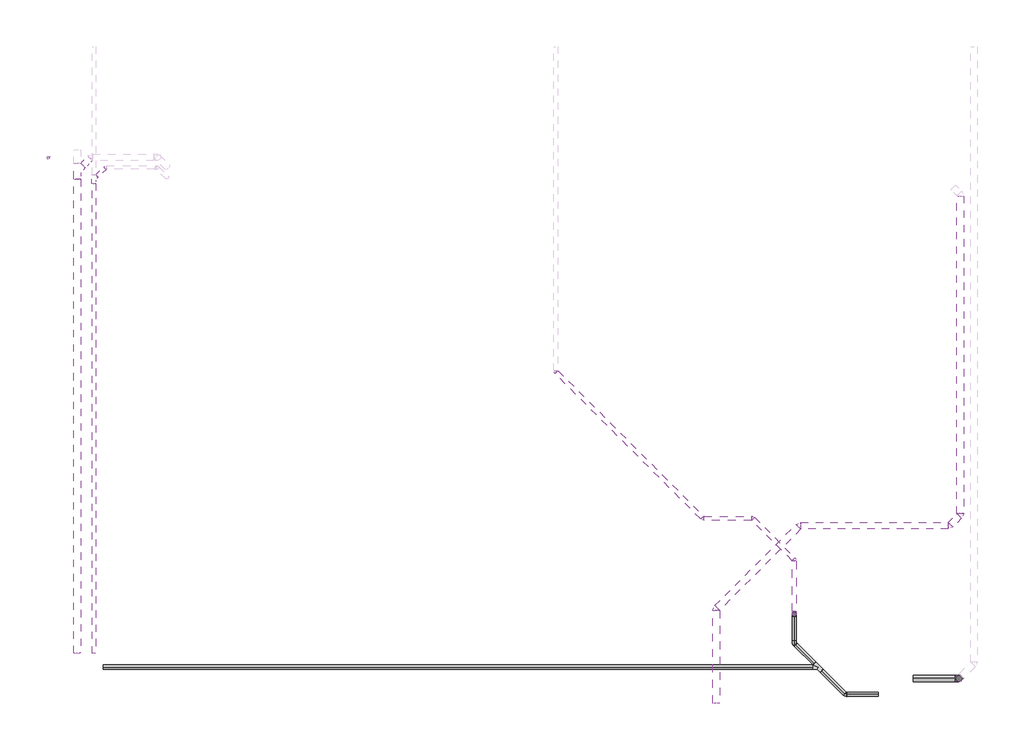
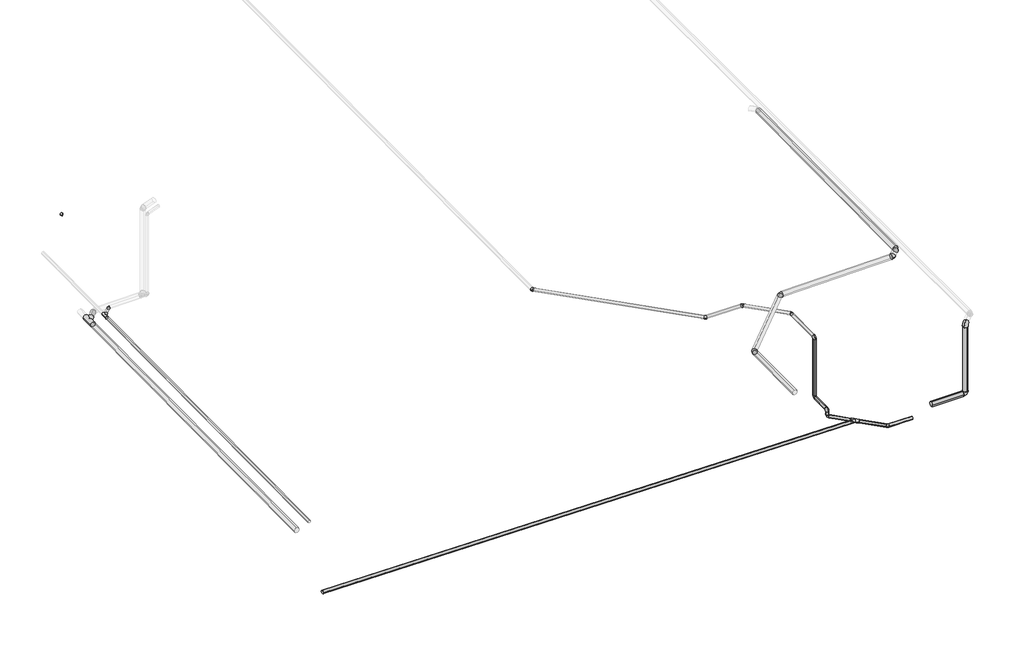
# One storey, part 1 of 2: 22 pipe segments, 20 pipe fittings.
"""IFC4 building model written with IfcOpenShell, lengths in millimetres."""

from ifc_helpers import new_model, si_unit, point, frame, frame_2d, origin, place, context, project, spatial, circle_curve, trimmed, segment, composite_curve, outline, extrude, transform, mapped, element, save
from components import pipe_fitting_8e92d537, pipe_fitting_b994c117, pipe_fitting_ae9a0cda, pipe_fitting_0b7fd5a4, pipe_fitting_b37f0415, pipe_fitting_556f92ad, pipe_fitting_19d05a80, pipe_fitting_ab36f62d, pipe_fitting_82aed225, pipe_fitting_02b8a132, pipe_fitting_ae0a18f3

model = new_model("IFC4")

# Units and contexts
model_context = context("Model", 3, world=origin())
ifc_project = project(units=[si_unit("LENGTHUNIT", "METRE", prefix="MILLI")], contexts=[model_context])

# Site, building, storey
site = spatial("IfcSite", under=ifc_project)
building = spatial("IfcBuilding", under=site)
storey = spatial("IfcBuildingStorey", under=building, Name="Nivell -03 PS2_PK", Elevation=-1600.0)

# Pipe fittings
placement = place(None, origin())
pipe_fitting_shape = pipe_fitting_8e92d537(model_context)
element("IfcPipeFitting", 1, ObjectType="M_Codo - Genérico : Estándar", at=placement, inside=storey, context=model_context, shape_type="MappedRepresentation", body=[
    mapped(pipe_fitting_shape, transform((26792.089401, -24927.3113201, 886.5006492), x_axis=(0.0, -0.9999500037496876, -0.009999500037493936), y_axis=(0.0, 0.009999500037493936, -0.9999500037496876), z_axis=(1.0, 0.0, 0.0))),
])
element("IfcPipeFitting", 2, ObjectType="M_Codo - Genérico : Estándar", at=placement, inside=storey, context=model_context, shape_type="MappedRepresentation", body=[
    mapped(pipe_fitting_shape, transform((26792.089401, -24927.3113201, -1699.500025), x_axis=(0.0, 0.0, -1.0), y_axis=(0.0, -1.0, 0.0), z_axis=(-1.0, 0.0, 0.0))),
])
element("IfcPipeFitting", 3, ObjectType="M_Codo - Genérico : Estándar", at=placement, inside=storey, context=model_context, shape_type="MappedRepresentation", body=[
    mapped(pipe_fitting_shape, transform((26792.089401, -25821.5720356, -1996.972254), x_axis=(0.0, 0.0, -1.0), y_axis=(0.707106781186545, -0.70710678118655, 0.0), z_axis=(-0.70710678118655, -0.707106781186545, 0.0))),
])
element("IfcPipeFitting", 4, ObjectType="M_Codo - Genérico : Estándar", at=placement, inside=storey, context=model_context, shape_type="MappedRepresentation", body=[
    mapped(pipe_fitting_shape, transform((26792.089401, -25821.5720356, -1708.4426322), x_axis=(0.0, -0.9999500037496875, -0.009999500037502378), y_axis=(0.0, 0.009999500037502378, -0.9999500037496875), z_axis=(1.0, 0.0, 0.0))),
])
pipe_fitting_2_shape = pipe_fitting_b994c117(model_context)
element("IfcPipeFitting", 5, ObjectType="M_Codo - Genérico : Estándar", at=placement, inside=storey, context=model_context, shape_type="MappedRepresentation", body=[
    mapped(pipe_fitting_2_shape, transform((28360.526171, -27390.0088055, -2019.1532995), x_axis=(0.707071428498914, -0.7070714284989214, -0.009999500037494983), y_axis=(0.707071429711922, 0.7071300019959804, -0.004141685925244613), z_axis=(0.009999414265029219, -0.0041418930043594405, 0.9999414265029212))),
])
element("IfcPipeFitting", 6, ObjectType="M_Codo - Genérico : Estándar", at=placement, inside=storey, context=model_context, shape_type="MappedRepresentation", body=[
    mapped(pipe_fitting_2_shape, transform((25519.3397767, -22004.6441895, 920.9992221), x_axis=(-0.7070714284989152, 0.7070714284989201, 0.00999950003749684), y_axis=(-0.7070714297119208, -0.7071300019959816, 0.004141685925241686), z_axis=(0.00999941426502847, -0.004141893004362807, 0.9999414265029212))),
])
element("IfcPipeFitting", 7, ObjectType="M_Codo - Genérico : Estándar", at=placement, inside=storey, context=model_context, shape_type="MappedRepresentation", body=[
    mapped(pipe_fitting_2_shape, transform((26792.089401, -23277.3938139, 902.9998243), x_axis=(0.0, 0.9999500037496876, 0.00999950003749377), y_axis=(-0.999991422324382, -4.141685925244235e-05, 0.004141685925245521), z_axis=(0.004141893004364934, -0.009999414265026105, 0.9999414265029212))),
])
pipe_fitting_3_shape = pipe_fitting_ae9a0cda(model_context)
element("IfcPipeFitting", 8, ObjectType="M_Codo - Genérico : Estándar", at=placement, inside=storey, context=model_context, shape_type="MappedRepresentation", body=[
    mapped(pipe_fitting_3_shape, transform((31864.1905227, -21906.7775347, 1083.9654243), x_axis=(0.7070714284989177, 0.7070714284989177, 0.00999950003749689), y_axis=(-0.7071300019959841, 0.7070714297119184, 0.004141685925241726), z_axis=(-0.004141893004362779, -0.009999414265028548, 0.9999414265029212))),
])
element("IfcPipeFitting", 9, ObjectType="M_Codo - Genérico : Estándar", at=placement, inside=storey, context=model_context, shape_type="MappedRepresentation", body=[
    mapped(pipe_fitting_3_shape, transform((31538.4322829, -22232.5357745, 1079.3585071), x_axis=(0.9999500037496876, 0.0, 0.009999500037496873), y_axis=(-4.141685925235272e-05, 0.9999914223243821, 0.004141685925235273), z_axis=(-0.009999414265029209, -0.004141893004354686, 0.9999414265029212))),
])
element("IfcPipeFitting", 10, ObjectType="M_Codo - Genérico : Estándar", at=placement, inside=storey, context=model_context, shape_type="MappedRepresentation", body=[
    mapped(pipe_fitting_3_shape, transform((26953.6086018, -22232.5357745, 1033.5102703), x_axis=(-0.9999500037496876, 0.0, -0.009999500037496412), y_axis=(4.141685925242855e-05, -0.999991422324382, -0.004141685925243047), z_axis=(-0.009999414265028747, -0.004141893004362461, 0.9999414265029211))),
])
element("IfcPipeFitting", 11, ObjectType="M_Codo - Genérico : Estándar", at=placement, inside=storey, context=model_context, shape_type="MappedRepresentation", body=[
    mapped(pipe_fitting_3_shape, transform((24410.7856862, -24775.3586901, 997.5493237), x_axis=(-0.7070714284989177, -0.7070714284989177, -0.009999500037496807), y_axis=(0.7071300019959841, -0.7070714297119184, -0.00414168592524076), z_axis=(-0.0041418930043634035, -0.009999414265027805, 0.9999414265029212))),
])
pipe_fitting_4_shape = pipe_fitting_0b7fd5a4(model_context)
element("IfcPipeFitting", 12, ObjectType="M_Codo - Genérico : Estándar", at=placement, inside=storey, context=model_context, shape_type="MappedRepresentation", body=[
    mapped(pipe_fitting_4_shape, transform((5753.7244008, -11284.1025763, 1251.71283), x_axis=(-0.9999500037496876, 0.0, -0.009999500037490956), y_axis=(4.141685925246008e-05, -0.999991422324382, -0.00414168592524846), z_axis=(-0.009999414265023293, -0.004141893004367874, 0.9999414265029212))),
])
pipe_fitting_5_shape = pipe_fitting_b37f0415(model_context)
element("IfcPipeFitting", 13, ObjectType="M_Codo - Genérico : Estándar", at=placement, inside=storey, context=model_context, shape_type="MappedRepresentation", body=[
    mapped(pipe_fitting_5_shape, transform((31821.5211576, -26902.421925, -2100.0), x_axis=(1.0, 0.0, 0.0), y_axis=(0.0, 0.0, 1.0), z_axis=(0.0, -1.0, 0.0))),
])
element("IfcPipeFitting", 14, ObjectType="M_Codo - Genérico : Estándar", at=placement, inside=storey, context=model_context, shape_type="MappedRepresentation", body=[
    mapped(pipe_fitting_5_shape, transform((31821.5211576, -26902.421925, 900.0), x_axis=(0.0, 0.0, 1.0), y_axis=(0.7071067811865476, 0.7071067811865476, 0.0), z_axis=(-0.7071067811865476, 0.7071067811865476, 0.0))),
])
pipe_fitting_6_shape = pipe_fitting_556f92ad(model_context)
element("IfcPipeFitting", 15, ObjectType="M_Codo - Genérico : Estándar", at=placement, inside=storey, context=model_context, shape_type="MappedRepresentation", body=[
    mapped(pipe_fitting_6_shape, transform((19509.4431427, -17513.7662193, 999.6992168), x_axis=(0.0, -0.9999500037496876, -0.009999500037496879), y_axis=(0.999991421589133, 4.141863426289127e-05, -0.0041418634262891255), z_axis=(0.00414207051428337, -0.009999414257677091, 0.9999414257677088))),
])
pipe_fitting_7_shape = pipe_fitting_19d05a80(model_context)
element("IfcPipeFitting", 16, ObjectType="M_Codo - Genérico : Estándar", at=placement, inside=storey, context=model_context, shape_type="MappedRepresentation", body=[
    mapped(pipe_fitting_7_shape, transform((24000.5933142, -22004.6441895, 936.1866867), x_axis=(0.707092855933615, -0.7070500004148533, -0.00999950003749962), y_axis=(0.7070500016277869, 0.7071514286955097, -0.004141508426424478), z_axis=(0.009999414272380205, -0.004141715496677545, 0.9999414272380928))),
])
pipe_fitting_8_shape = pipe_fitting_ab36f62d(model_context)
element("IfcPipeFitting", 17, ObjectType="M_Te - Genérica : Estándar", at=placement, inside=storey, context=model_context, shape_type="MappedRepresentation", body=[
    mapped(pipe_fitting_8_shape, transform((27523.0519448, -26552.5345793, -2007.3096254), x_axis=(-0.7070714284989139, 0.7070714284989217, 0.009999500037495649), y_axis=(0.7070714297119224, 0.7071300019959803, -0.004141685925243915), z_axis=(-0.009999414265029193, 0.004141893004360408, -0.9999414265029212))),
])
pipe_fitting_9_shape = pipe_fitting_82aed225(model_context)
element("IfcPipeFitting", 18, ObjectType="M_Codo - Genérico : Estándar", at=placement, inside=storey, context=model_context, shape_type="MappedRepresentation", body=[
    mapped(pipe_fitting_9_shape, transform((4010.393115, -10973.4626417, 5711.2872501), x_axis=(0.0, -0.9999515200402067, -0.009846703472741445), y_axis=(0.999990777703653, 4.228870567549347e-05, -0.004294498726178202), z_axis=(0.004294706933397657, -0.009846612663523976, 0.9999422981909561))),
])
pipe_fitting_10_shape = pipe_fitting_02b8a132(model_context)
element("IfcPipeFitting", 19, ObjectType="M_Te - Genérica : Estándar", at=placement, inside=storey, context=model_context, shape_type="MappedRepresentation", body=[
    mapped(pipe_fitting_10_shape, transform((5397.7408128, -11640.0861643, 1246.6784618), x_axis=(0.0, 0.9999500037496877, 0.009999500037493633), y_axis=(-0.9999914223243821, 4.14168592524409e-05, -0.004141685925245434), z_axis=(-0.004141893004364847, -0.009999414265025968, 0.9999414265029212))),
])
pipe_fitting_11_shape = pipe_fitting_ae0a18f3(model_context)
element("IfcPipeFitting", 20, ObjectType="M_Te - Genérica : Estándar", at=placement, inside=storey, context=model_context, shape_type="MappedRepresentation", body=[
    mapped(pipe_fitting_11_shape, transform((4891.2404963, -11395.0341995, 1050.0), x_axis=(0.0, 0.9999500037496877, 0.00999950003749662), y_axis=(-0.9999914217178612, 4.141832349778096e-05, -0.004141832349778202), z_axis=(-0.0041420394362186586, -0.009999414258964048, 0.9999414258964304))),
])

# Pipe segments
element("IfcPipeSegment", 21, ObjectType="PVC_Baixant", at=placement, inside=storey, context=model_context, shape_type="SweptSolid", body=[
    extrude(outline(composite_curve([segment(trimmed(circle_curve(frame_2d((0.0, -100.0)), 100.0), [point((-100.0, -100.0))], [point((0.0, 0.0))], False, "CARTESIAN"), True, "CONTINUOUS"), segment(trimmed(circle_curve(frame_2d((0.0, -100.0)), 100.0), [point((0.0, 0.0))], [point((100.0, -100.0))], False, "CARTESIAN"), True, "CONTINUOUS"), segment(trimmed(circle_curve(frame_2d((0.0, -100.0)), 100.0), [point((100.0, -100.0))], [point((0.0, -200.0))], False, "CARTESIAN"), True, "CONTINUOUS"), segment(trimmed(circle_curve(frame_2d((0.0, -100.0)), 100.0), [point((0.0, -200.0))], [point((-100.0, -100.0))], False, "CARTESIAN"), True, "CONTINUOUS")], self_intersect=False)), frame((31864.1905227, -21860.4105925, 984.4240938), z_axis=(0.0, 0.9999500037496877, 0.00999950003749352), x_axis=(1.0, 0.0, 0.0)), (0.0, 0.0, 1.0), 9708.5243128),
])
element("IfcPipeSegment", 22, ObjectType="PVC_Baixant", at=placement, inside=storey, context=model_context, shape_type="SweptSolid", body=[
    extrude(outline(composite_curve([segment(trimmed(circle_curve(frame_2d((0.0, -100.0)), 100.0), [point((-99.9950009, -99.0001))], [point((0.9999, -0.0049991))], False, "CARTESIAN"), True, "CONTINUOUS"), segment(trimmed(circle_curve(frame_2d((0.0, -100.0)), 100.0), [point((0.9999, -0.0049991))], [point((99.9950009, -100.9999))], False, "CARTESIAN"), True, "CONTINUOUS"), segment(trimmed(circle_curve(frame_2d((0.0, -100.0)), 100.0), [point((99.9950009, -100.9999))], [point((-0.9999, -199.9950009))], False, "CARTESIAN"), True, "CONTINUOUS"), segment(trimmed(circle_curve(frame_2d((0.0, -100.0)), 100.0), [point((-0.9999, -199.9950009))], [point((-99.9950009, -99.0001))], False, "CARTESIAN"), True, "CONTINUOUS")], self_intersect=False)), frame((31570.5115907, -22199.0423945, 979.8221755), z_axis=(0.7070714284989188, 0.7070714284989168, 0.009999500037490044), x_axis=(0.7071421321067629, -0.7070007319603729, -0.009998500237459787)), (0.0, 0.0, 1.0), 369.9762338),
])
element("IfcPipeSegment", 23, ObjectType="PVC_Baixant", at=placement, inside=storey, context=model_context, shape_type="SweptSolid", body=[
    extrude(outline(composite_curve([segment(trimmed(circle_curve(frame_2d((0.0, -100.0)), 100.0), [point((0.0, 0.0))], [point((100.0, -100.0))], False, "CARTESIAN"), True, "CONTINUOUS"), segment(trimmed(circle_curve(frame_2d((0.0, -100.0)), 100.0), [point((100.0, -100.0))], [point((0.0, -200.0))], False, "CARTESIAN"), True, "CONTINUOUS"), segment(trimmed(circle_curve(frame_2d((0.0, -100.0)), 100.0), [point((0.0, -200.0))], [point((-100.0, -100.0))], False, "CARTESIAN"), True, "CONTINUOUS"), segment(trimmed(circle_curve(frame_2d((0.0, -100.0)), 100.0), [point((-100.0, -100.0))], [point((0.0, 0.0))], False, "CARTESIAN"), True, "CONTINUOUS")], self_intersect=False)), frame((26998.975594, -22132.5357745, 1033.9639402), z_axis=(0.9999500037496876, 0.0, 0.009999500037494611), x_axis=(0.009999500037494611, 0.0, -0.9999500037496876)), (0.0, 0.0, 1.0), 4494.3143955),
])
element("IfcPipeSegment", 24, ObjectType="PVC_Baixant", at=placement, inside=storey, context=model_context, shape_type="SweptSolid", body=[
    extrude(outline(composite_curve([segment(trimmed(circle_curve(frame_2d((0.0, -100.0)), 100.0), [point((-99.9950008, -99.0001))], [point((0.9999, -0.0049991))], False, "CARTESIAN"), True, "CONTINUOUS"), segment(trimmed(circle_curve(frame_2d((0.0, -100.0)), 100.0), [point((0.9999, -0.0049991))], [point((99.9950009, -100.9999))], False, "CARTESIAN"), True, "CONTINUOUS"), segment(trimmed(circle_curve(frame_2d((0.0, -100.0)), 100.0), [point((99.9950009, -100.9999))], [point((-0.9999, -199.9950008))], False, "CARTESIAN"), True, "CONTINUOUS"), segment(trimmed(circle_curve(frame_2d((0.0, -100.0)), 100.0), [point((-0.9999, -199.9950008))], [point((-99.9950008, -99.0001))], False, "CARTESIAN"), True, "CONTINUOUS")], self_intersect=False)), frame((24442.864994, -24741.8653101, 898.0129922), z_axis=(0.7070714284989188, 0.7070714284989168, 0.009999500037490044), x_axis=(0.7071421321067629, -0.7070007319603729, -0.009998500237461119)), (0.0, 0.0, 1.0), 3505.5359332),
])
element("IfcPipeSegment", 25, ObjectType="PVC_Baixant", at=placement, inside=storey, context=model_context, shape_type="SweptSolid", body=[
    extrude(outline(composite_curve([segment(trimmed(circle_curve(frame_2d((0.0, -100.0)), 100.0), [point((-100.0, -100.0))], [point((0.0, 0.0))], False, "CARTESIAN"), True, "CONTINUOUS"), segment(trimmed(circle_curve(frame_2d((0.0, -100.0)), 100.0), [point((0.0, 0.0))], [point((100.0, -100.0))], False, "CARTESIAN"), True, "CONTINUOUS"), segment(trimmed(circle_curve(frame_2d((0.0, -100.0)), 100.0), [point((100.0, -100.0))], [point((0.0, -200.0))], False, "CARTESIAN"), True, "CONTINUOUS"), segment(trimmed(circle_curve(frame_2d((0.0, -100.0)), 100.0), [point((0.0, -200.0))], [point((-100.0, -100.0))], False, "CARTESIAN"), True, "CONTINUOUS")], self_intersect=False)), frame((24410.7856862, -27657.501052, 868.7229002), z_axis=(0.0, 0.9999500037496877, 0.009999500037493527), x_axis=(1.0, 0.0, 0.0)), (0.0, 0.0, 1.0), 2837.9172049),
])
element("IfcPipeSegment", 26, ObjectType="PVC_Baixant", at=placement, inside=storey, context=model_context, shape_type="SweptSolid", body=[
    extrude(outline(composite_curve([segment(trimmed(circle_curve(frame_2d((0.0, -62.5)), 62.5), [point((0.0, -125.0))], [point((-62.5, -62.5))], False, "CARTESIAN"), True, "CONTINUOUS"), segment(trimmed(circle_curve(frame_2d((0.0, -62.5)), 62.5), [point((-62.5, -62.5))], [point((0.0, 0.0))], False, "CARTESIAN"), True, "CONTINUOUS"), segment(trimmed(circle_curve(frame_2d((0.0, -62.5)), 62.5), [point((0.0, 0.0))], [point((62.5, -62.5))], False, "CARTESIAN"), True, "CONTINUOUS"), segment(trimmed(circle_curve(frame_2d((0.0, -62.5)), 62.5), [point((62.5, -62.5))], [point((0.0, -125.0))], False, "CARTESIAN"), True, "CONTINUOUS")], self_intersect=False)), frame((27365.9154716, -26490.0345793, -2005.7382607), z_axis=(-0.9999500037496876, 0.0, 0.009999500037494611), x_axis=(0.009999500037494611, 0.0, 0.9999500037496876)), (0.0, 0.0, 1.0), 21680.2763571),
])
element("IfcPipeSegment", 27, ObjectType="PVC_Baixant", at=placement, inside=storey, context=model_context, shape_type="SweptSolid", body=[
    extrude(outline(composite_curve([segment(trimmed(circle_curve(frame_2d((0.0, -62.5000001)), 62.5), [point((-62.4968755, -63.1249376))], [point((-0.6249374, -0.0031244))], False, "CARTESIAN"), True, "CONTINUOUS"), segment(trimmed(circle_curve(frame_2d((0.0, -62.5000001)), 62.5), [point((-0.6249374, -0.0031244))], [point((62.4968756, -61.8750626))], False, "CARTESIAN"), True, "CONTINUOUS"), segment(trimmed(circle_curve(frame_2d((0.0, -62.5000001)), 62.5), [point((62.4968756, -61.8750626))], [point((0.6249376, -124.9968756))], False, "CARTESIAN"), True, "CONTINUOUS"), segment(trimmed(circle_curve(frame_2d((0.0, -62.5000001)), 62.5), [point((0.6249376, -124.9968756))], [point((-62.4968755, -63.1249376))], False, "CARTESIAN"), True, "CONTINUOUS")], self_intersect=False)), frame((28339.6048832, -27368.2037227, -2081.3511788), z_axis=(-0.7070714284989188, 0.7070714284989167, 0.009999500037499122), x_axis=(0.7071421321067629, 0.7070007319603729, 0.009998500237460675)), (0.0, 0.0, 1.0), 997.6936478),
])
element("IfcPipeSegment", 28, ObjectType="PVC_Baixant", at=placement, inside=storey, context=model_context, shape_type="SweptSolid", body=[
    extrude(outline(composite_curve([segment(trimmed(circle_curve(frame_2d((0.0, -62.5)), 62.5), [point((0.0, -125.0))], [point((-62.5000001, -62.5))], False, "CARTESIAN"), True, "CONTINUOUS"), segment(trimmed(circle_curve(frame_2d((0.0, -62.5)), 62.5), [point((-62.5000001, -62.5))], [point((0.0, 0.0))], False, "CARTESIAN"), True, "CONTINUOUS"), segment(trimmed(circle_curve(frame_2d((0.0, -62.5)), 62.5), [point((0.0, 0.0))], [point((62.5, -62.5))], False, "CARTESIAN"), True, "CONTINUOUS"), segment(trimmed(circle_curve(frame_2d((0.0, -62.5)), 62.5), [point((62.5, -62.5))], [point((0.0, -125.0))], False, "CARTESIAN"), True, "CONTINUOUS")], self_intersect=False)), frame((29360.5358433, -27327.5088055, -2029.1533962), z_axis=(-0.9999500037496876, 0.0, 0.009999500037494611), x_axis=(0.009999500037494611, 0.0, 0.9999500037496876)), (0.0, 0.0, 1.0), 970.4710235),
])
element("IfcPipeSegment", 29, ObjectType="PVC_Baixant", at=placement, inside=storey, context=model_context, shape_type="SweptSolid", body=[
    extrude(outline(composite_curve([segment(trimmed(circle_curve(frame_2d((-26902.421925, -2100.0)), 100.0), [point((-27002.421925, -2100.0))], [point((-26902.421925, -2000.0))], False, "CARTESIAN"), True, "CONTINUOUS"), segment(trimmed(circle_curve(frame_2d((-26902.421925, -2100.0)), 100.0), [point((-26902.421925, -2000.0))], [point((-26802.421925, -2100.0))], False, "CARTESIAN"), True, "CONTINUOUS"), segment(trimmed(circle_curve(frame_2d((-26902.421925, -2100.0)), 100.0), [point((-26802.421925, -2100.0))], [point((-26902.421925, -2200.0))], False, "CARTESIAN"), True, "CONTINUOUS"), segment(trimmed(circle_curve(frame_2d((-26902.421925, -2100.0)), 100.0), [point((-26902.421925, -2200.0))], [point((-27002.421925, -2100.0))], False, "CARTESIAN"), True, "CONTINUOUS")], self_intersect=False)), frame((30421.5211576, 0.0, 0.0), z_axis=(1.0, 0.0, 0.0), x_axis=(0.0, 1.0, 0.0)), (0.0, 0.0, 1.0), 1290.4625),
])
element("IfcPipeSegment", 30, ObjectType="PVC_Baixant", at=placement, inside=storey, context=model_context, shape_type="SweptSolid", body=[
    extrude(outline(composite_curve([segment(trimmed(circle_curve(frame_2d((31821.5211576, -26902.421925)), 100.0), [point((31721.5211576, -26902.421925))], [point((31821.5211576, -26802.421925))], False, "CARTESIAN"), True, "CONTINUOUS"), segment(trimmed(circle_curve(frame_2d((31821.5211576, -26902.421925)), 100.0), [point((31821.5211576, -26802.421925))], [point((31921.5211576, -26902.421925))], False, "CARTESIAN"), True, "CONTINUOUS"), segment(trimmed(circle_curve(frame_2d((31821.5211576, -26902.421925)), 100.0), [point((31921.5211576, -26902.421925))], [point((31821.5211576, -27002.421925))], False, "CARTESIAN"), True, "CONTINUOUS"), segment(trimmed(circle_curve(frame_2d((31821.5211576, -26902.421925)), 100.0), [point((31821.5211576, -27002.421925))], [point((31721.5211576, -26902.421925))], False, "CARTESIAN"), True, "CONTINUOUS")], self_intersect=False)), frame((0.0, 0.0, -1990.4625), z_axis=(0.0, 0.0, 1.0), x_axis=(1.0, 0.0, 0.0)), (0.0, 0.0, 1.0), 2780.925),
])
element("IfcPipeSegment", 31, ObjectType="PVC_Baixant", at=placement, inside=storey, context=model_context, shape_type="SweptSolid", body=[
    extrude(outline(composite_curve([segment(trimmed(circle_curve(frame_2d((1e-07, -62.4999999)), 62.5), [point((-62.4968752, -63.1249753))], [point((-0.6249753, -0.0031248))], False, "CARTESIAN"), True, "CONTINUOUS"), segment(trimmed(circle_curve(frame_2d((1e-07, -62.4999999)), 62.5), [point((-0.6249753, -0.0031248))], [point((62.4968752, -61.8750246))], False, "CARTESIAN"), True, "CONTINUOUS"), segment(trimmed(circle_curve(frame_2d((1e-07, -62.4999999)), 62.5), [point((62.4968752, -61.8750246))], [point((0.6249755, -124.9968752))], False, "CARTESIAN"), True, "CONTINUOUS"), segment(trimmed(circle_curve(frame_2d((1e-07, -62.4999999)), 62.5), [point((0.6249755, -124.9968752))], [point((-62.4968752, -63.1249753))], False, "CARTESIAN"), True, "CONTINUOUS")], self_intersect=False)), frame((23979.6722891, -21982.8406106, 873.9887952), z_axis=(-0.7070928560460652, 0.7070500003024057, 0.0099995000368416), x_axis=(0.7071207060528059, 0.7070221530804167, 0.009999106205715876)), (0.0, 0.0, 1.0), 6292.3932691),
])
element("IfcPipeSegment", 32, ObjectType="PVC_Baixant", at=placement, inside=storey, context=model_context, shape_type="SweptSolid", body=[
    extrude(outline(composite_curve([segment(trimmed(circle_curve(frame_2d((0.0, -62.5)), 62.5), [point((0.0, -125.0))], [point((-62.5000001, -62.5))], False, "CARTESIAN"), True, "CONTINUOUS"), segment(trimmed(circle_curve(frame_2d((0.0, -62.5)), 62.5), [point((-62.5000001, -62.5))], [point((0.0, 0.0))], False, "CARTESIAN"), True, "CONTINUOUS"), segment(trimmed(circle_curve(frame_2d((0.0, -62.5)), 62.5), [point((0.0, 0.0))], [point((62.5, -62.5))], False, "CARTESIAN"), True, "CONTINUOUS"), segment(trimmed(circle_curve(frame_2d((0.0, -62.5)), 62.5), [point((62.5, -62.5))], [point((0.0, -125.0))], False, "CARTESIAN"), True, "CONTINUOUS")], self_intersect=False)), frame((25489.7526079, -21942.1441895, 921.2950938), z_axis=(-0.999950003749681, 0.0, 0.009999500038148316), x_axis=(0.009999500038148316, 0.0, 0.999950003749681)), (0.0, 0.0, 1.0), 1459.6463697),
])
element("IfcPipeSegment", 33, ObjectType="PVC_Baixant", at=placement, inside=storey, context=model_context, shape_type="SweptSolid", body=[
    extrude(outline(composite_curve([segment(trimmed(circle_curve(frame_2d((0.0, -62.5000001)), 62.5), [point((-62.4968755, -63.1249376))], [point((-0.6249374, -0.0031244))], False, "CARTESIAN"), True, "CONTINUOUS"), segment(trimmed(circle_curve(frame_2d((0.0, -62.5000001)), 62.5), [point((-0.6249374, -0.0031244))], [point((62.4968756, -61.8750626))], False, "CARTESIAN"), True, "CONTINUOUS"), segment(trimmed(circle_curve(frame_2d((0.0, -62.5000001)), 62.5), [point((62.4968756, -61.8750626))], [point((0.6249375, -124.9968756))], False, "CARTESIAN"), True, "CONTINUOUS"), segment(trimmed(circle_curve(frame_2d((0.0, -62.5000001)), 62.5), [point((0.6249375, -124.9968756))], [point((-62.4968755, -63.1249376))], False, "CARTESIAN"), True, "CONTINUOUS")], self_intersect=False)), frame((26771.1681133, -23255.5887311, 840.801945), z_axis=(-0.7070714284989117, 0.7070714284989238, 0.009999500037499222), x_axis=(0.70714213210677, 0.7070007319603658, 0.009998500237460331)), (0.0, 0.0, 1.0), 1740.8524787),
])
element("IfcPipeSegment", 34, ObjectType="PVC_Baixant", at=placement, inside=storey, context=model_context, shape_type="SweptSolid", body=[
    extrude(outline(composite_curve([segment(trimmed(circle_curve(frame_2d((0.0, -62.5)), 62.5), [point((-62.5, -62.5))], [point((0.0, 0.0))], False, "CARTESIAN"), True, "CONTINUOUS"), segment(trimmed(circle_curve(frame_2d((0.0, -62.5)), 62.5), [point((0.0, 0.0))], [point((62.5, -62.5))], False, "CARTESIAN"), True, "CONTINUOUS"), segment(trimmed(circle_curve(frame_2d((0.0, -62.5)), 62.5), [point((62.5, -62.5))], [point((0.0, -125.0))], False, "CARTESIAN"), True, "CONTINUOUS"), segment(trimmed(circle_curve(frame_2d((0.0, -62.5)), 62.5), [point((0.0, -125.0))], [point((-62.5, -62.5))], False, "CARTESIAN"), True, "CONTINUOUS")], self_intersect=False)), frame((26792.089401, -24855.9631906, 824.7110056), z_axis=(0.0, 0.9999500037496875, 0.009999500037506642), x_axis=(1.0, 0.0, 0.0)), (0.0, 0.0, 1.0), 1549.6846551),
])
element("IfcPipeSegment", 35, ObjectType="PVC_Baixant", at=placement, inside=storey, context=model_context, shape_type="SweptSolid", body=[
    extrude(outline(composite_curve([segment(trimmed(circle_curve(frame_2d((26792.089401, -24927.3113201)), 62.5), [point((26854.589401, -24927.3113201))], [point((26792.089401, -24989.8113201))], False, "CARTESIAN"), True, "CONTINUOUS"), segment(trimmed(circle_curve(frame_2d((26792.089401, -24927.3113201)), 62.5), [point((26792.089401, -24989.8113201))], [point((26729.589401, -24927.3113201))], False, "CARTESIAN"), True, "CONTINUOUS"), segment(trimmed(circle_curve(frame_2d((26792.089401, -24927.3113201)), 62.5), [point((26729.589401, -24927.3113201))], [point((26792.089401, -24864.8113201))], False, "CARTESIAN"), True, "CONTINUOUS"), segment(trimmed(circle_curve(frame_2d((26792.089401, -24927.3113201)), 62.5), [point((26792.089401, -24864.8113201))], [point((26854.589401, -24927.3113201))], False, "CARTESIAN"), True, "CONTINUOUS")], self_intersect=False)), frame((0.0, 0.0, -1628.7733282), z_axis=(0.0, 0.0, 1.0), x_axis=(1.0, 0.0, 0.0)), (0.0, 0.0, 1.0), 2444.5472806),
])
element("IfcPipeSegment", 36, ObjectType="PVC_Baixant", at=placement, inside=storey, context=model_context, shape_type="SweptSolid", body=[
    extrude(outline(composite_curve([segment(trimmed(circle_curve(frame_2d((0.0, -62.5)), 62.5), [point((-62.4968755, -63.1249375))], [point((-0.6249374, -0.0031244))], False, "CARTESIAN"), True, "CONTINUOUS"), segment(trimmed(circle_curve(frame_2d((0.0, -62.5)), 62.5), [point((-0.6249374, -0.0031244))], [point((62.4968756, -61.8750625))], False, "CARTESIAN"), True, "CONTINUOUS"), segment(trimmed(circle_curve(frame_2d((0.0, -62.5)), 62.5), [point((62.4968756, -61.8750625))], [point((0.6249376, -124.9968755))], False, "CARTESIAN"), True, "CONTINUOUS"), segment(trimmed(circle_curve(frame_2d((0.0, -62.5)), 62.5), [point((0.6249376, -124.9968755))], [point((-62.4968755, -63.1249375))], False, "CARTESIAN"), True, "CONTINUOUS")], self_intersect=False)), frame((27411.939679, -26440.5385185, -2068.2320116), z_axis=(-0.7070714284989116, 0.7070714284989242, 0.009999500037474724), x_axis=(0.7071421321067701, 0.707000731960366, 0.009998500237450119)), (0.0, 0.0, 1.0), 805.917802),
])
element("IfcPipeSegment", 37, ObjectType="PVC_Baixant", at=placement, inside=storey, context=model_context, shape_type="SweptSolid", body=[
    extrude(outline(composite_curve([segment(trimmed(circle_curve(frame_2d((26792.089401, -25821.5720356)), 62.5), [point((26854.589401, -25821.5720356))], [point((26792.089401, -25884.0720356))], False, "CARTESIAN"), True, "CONTINUOUS"), segment(trimmed(circle_curve(frame_2d((26792.089401, -25821.5720356)), 62.5), [point((26792.089401, -25884.0720356))], [point((26729.589401, -25821.5720356))], False, "CARTESIAN"), True, "CONTINUOUS"), segment(trimmed(circle_curve(frame_2d((26792.089401, -25821.5720356)), 62.5), [point((26729.589401, -25821.5720356))], [point((26792.089401, -25759.0720356))], False, "CARTESIAN"), True, "CONTINUOUS"), segment(trimmed(circle_curve(frame_2d((26792.089401, -25821.5720356)), 62.5), [point((26792.089401, -25759.0720356))], [point((26854.589401, -25821.5720356))], False, "CARTESIAN"), True, "CONTINUOUS")], self_intersect=False)), frame((0.0, 0.0, -1926.2455572), z_axis=(0.0, 0.0, 1.0), x_axis=(1.0, 0.0, 0.0)), (0.0, 0.0, 1.0), 147.0762283),
])
element("IfcPipeSegment", 38, ObjectType="PVC_Baixant", at=placement, inside=storey, context=model_context, shape_type="SweptSolid", body=[
    extrude(outline(composite_curve([segment(trimmed(circle_curve(frame_2d((0.0, -62.5000001)), 62.5), [point((-62.5, -62.5000001))], [point((0.0, 0.0))], False, "CARTESIAN"), True, "CONTINUOUS"), segment(trimmed(circle_curve(frame_2d((0.0, -62.5000001)), 62.5), [point((0.0, 0.0))], [point((62.5, -62.5000001))], False, "CARTESIAN"), True, "CONTINUOUS"), segment(trimmed(circle_curve(frame_2d((0.0, -62.5000001)), 62.5), [point((62.5, -62.5000001))], [point((0.0, -125.0))], False, "CARTESIAN"), True, "CONTINUOUS"), segment(trimmed(circle_curve(frame_2d((0.0, -62.5000001)), 62.5), [point((0.0, -125.0))], [point((-62.5, -62.5000001))], False, "CARTESIAN"), True, "CONTINUOUS")], self_intersect=False)), frame((26792.089401, -25750.2239061, -1770.2322758), z_axis=(0.0, 0.9999500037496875, 0.00999950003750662), x_axis=(1.0, 0.0, 0.0)), (0.0, 0.0, 1.0), 752.8520338),
])
element("IfcPipeSegment", 39, ObjectType="PVC_Baixant", at=placement, inside=storey, context=model_context, shape_type="SweptSolid", body=[
    extrude(outline(composite_curve([segment(trimmed(circle_curve(frame_2d((0.0, -55.0)), 55.0), [point((-55.0, -55.0))], [point((0.0, 0.0))], False, "CARTESIAN"), True, "CONTINUOUS"), segment(trimmed(circle_curve(frame_2d((0.0, -55.0)), 55.0), [point((0.0, 0.0))], [point((55.0, -55.0))], False, "CARTESIAN"), True, "CONTINUOUS"), segment(trimmed(circle_curve(frame_2d((0.0, -55.0)), 55.0), [point((55.0, -55.0))], [point((0.0, -110.0))], False, "CARTESIAN"), True, "CONTINUOUS"), segment(trimmed(circle_curve(frame_2d((0.0, -55.0)), 55.0), [point((0.0, -110.0))], [point((-55.0, -55.0))], False, "CARTESIAN"), True, "CONTINUOUS")], self_intersect=False)), frame((5397.7408128, -26130.794951, 1046.768624), z_axis=(0.0, 0.9999500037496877, 0.009999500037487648), x_axis=(1.0, 0.0, 0.0)), (0.0, 0.0, 1.0), 14355.3609916),
])
element("IfcPipeSegment", 40, ObjectType="PVC_Baixant", at=placement, inside=storey, context=model_context, shape_type="SweptSolid", body=[
    extrude(outline(composite_curve([segment(trimmed(circle_curve(frame_2d((0.0, -55.0)), 55.0), [point((-54.9972505, -54.450055))], [point((0.549945, -0.0027495))], False, "CARTESIAN"), True, "CONTINUOUS"), segment(trimmed(circle_curve(frame_2d((0.0, -55.0)), 55.0), [point((0.549945, -0.0027495))], [point((54.9972505, -55.549945))], False, "CARTESIAN"), True, "CONTINUOUS"), segment(trimmed(circle_curve(frame_2d((0.0, -55.0)), 55.0), [point((54.9972505, -55.549945))], [point((-0.549945, -109.9972505))], False, "CARTESIAN"), True, "CONTINUOUS"), segment(trimmed(circle_curve(frame_2d((0.0, -55.0)), 55.0), [point((-0.549945, -109.9972505))], [point((-54.9972505, -54.450055))], False, "CARTESIAN"), True, "CONTINUOUS")], self_intersect=False)), frame((5494.3425464, -11542.706691, 1193.0501158), z_axis=(0.7070714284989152, 0.7070714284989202, 0.009999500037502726), x_axis=(0.7071421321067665, -0.7070007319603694, -0.009998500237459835)), (0.0, 0.0, 1.0), 340.7716378),
])
element("IfcPipeSegment", 41, ObjectType="PVC_Baixant", at=placement, inside=storey, context=model_context, shape_type="SweptSolid", body=[
    extrude(outline(composite_curve([segment(trimmed(circle_curve(frame_2d((0.0, 99.9999999)), 100.0), [point((100.0, 99.9999999))], [point((0.0, 0.0))], False, "CARTESIAN"), True, "CONTINUOUS"), segment(trimmed(circle_curve(frame_2d((0.0, 99.9999999)), 100.0), [point((0.0, 0.0))], [point((-100.0, 99.9999999))], False, "CARTESIAN"), True, "CONTINUOUS"), segment(trimmed(circle_curve(frame_2d((0.0, 99.9999999)), 100.0), [point((-100.0, 99.9999999))], [point((0.0, 199.9999999))], False, "CARTESIAN"), True, "CONTINUOUS"), segment(trimmed(circle_curve(frame_2d((0.0, 99.9999999)), 100.0), [point((0.0, 199.9999999))], [point((100.0, 99.9999999))], False, "CARTESIAN"), True, "CONTINUOUS")], self_intersect=False)), frame((4891.2404963, -26126.0953628, 1002.6943882), z_axis=(0.0, 0.9999500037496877, 0.009999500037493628), x_axis=(1.0, 0.0, 0.0)), (0.0, 0.0, 1.0), 14481.6752512),
])
element("IfcPipeSegment", 42, ObjectType="PVC_Baixant", at=placement, inside=storey, context=model_context, shape_type="SweptSolid", body=[
    extrude(outline(composite_curve([segment(trimmed(circle_curve(frame_2d((0.0, 100.0)), 100.0), [point((99.9950005, 99.000056))], [point((-0.999944, 0.0049996))], False, "CARTESIAN"), True, "CONTINUOUS"), segment(trimmed(circle_curve(frame_2d((0.0, 100.0)), 100.0), [point((-0.999944, 0.0049996))], [point((-99.9950004, 100.999944))], False, "CARTESIAN"), True, "CONTINUOUS"), segment(trimmed(circle_curve(frame_2d((0.0, 100.0)), 100.0), [point((-99.9950004, 100.999944))], [point((0.999944, 199.9950005))], False, "CARTESIAN"), True, "CONTINUOUS"), segment(trimmed(circle_curve(frame_2d((0.0, 100.0)), 100.0), [point((0.999944, 199.9950005))], [point((99.9950005, 99.000056))], False, "CARTESIAN"), True, "CONTINUOUS")], self_intersect=False)), frame((5067.3922642, -11220.3053422, 1152.481101), z_axis=(0.7070869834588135, 0.7070558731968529, 0.009999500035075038), x_axis=(0.7071265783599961, -0.7070162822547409, -0.009998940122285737)), (0.0, 0.0, 1.0), 307.9120998),
])

save(model, "model.ifc")
